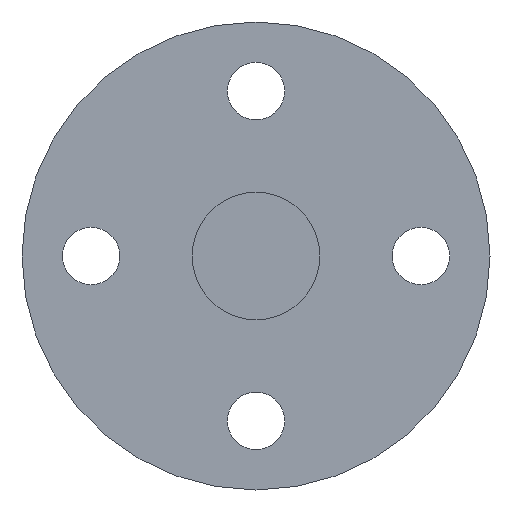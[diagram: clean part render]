
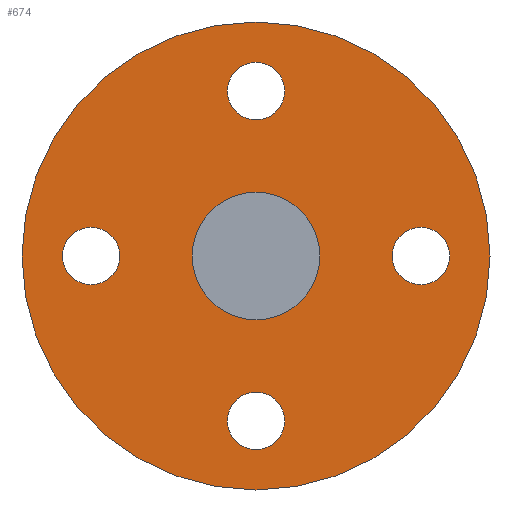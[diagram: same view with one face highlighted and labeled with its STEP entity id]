
A CAD part, left-side view. The second image highlights one B-rep face of the part: STEP entity #674.
In plain terms, the highlighted planar face has unit normal (-1, 0, 0).
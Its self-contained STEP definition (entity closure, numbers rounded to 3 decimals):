
#563=CARTESIAN_POINT('',(135.0,15.5,-2.7));
#564=VERTEX_POINT('',#563);
#565=CARTESIAN_POINT('',(135.0,15.5,0.));
#566=DIRECTION('',(1.0,0.0,0.0));
#567=DIRECTION('',(0.0,0.0,-1.0));
#568=AXIS2_PLACEMENT_3D('',#565,#566,#567);
#569=CIRCLE('',#568,2.7);
#570=EDGE_CURVE('',#564,#564,#569,.T.);
#583=CARTESIAN_POINT('',(135.0,-2.7,-15.5));
#584=VERTEX_POINT('',#583);
#585=CARTESIAN_POINT('',(135.0,0.,-15.5));
#586=DIRECTION('',(1.0,0.0,0.0));
#587=DIRECTION('',(0.0,-1.0,0.0));
#588=AXIS2_PLACEMENT_3D('',#585,#586,#587);
#589=CIRCLE('',#588,2.7);
#590=EDGE_CURVE('',#584,#584,#589,.T.);
#603=CARTESIAN_POINT('',(135.0,-15.5,2.7));
#604=VERTEX_POINT('',#603);
#605=CARTESIAN_POINT('',(135.0,-15.5,0.));
#606=DIRECTION('',(1.0,0.0,0.0));
#607=DIRECTION('',(0.0,0.0,1.0));
#608=AXIS2_PLACEMENT_3D('',#605,#606,#607);
#609=CIRCLE('',#608,2.7);
#610=EDGE_CURVE('',#604,#604,#609,.T.);
#623=CARTESIAN_POINT('',(135.0,2.7,15.5));
#624=VERTEX_POINT('',#623);
#625=CARTESIAN_POINT('',(135.0,0.0,15.5));
#626=DIRECTION('',(1.0,0.0,0.0));
#627=DIRECTION('',(0.0,1.0,0.0));
#628=AXIS2_PLACEMENT_3D('',#625,#626,#627);
#629=CIRCLE('',#628,2.7);
#630=EDGE_CURVE('',#624,#624,#629,.T.);
#635=CARTESIAN_POINT('',(135.0,0.0,14.));
#636=DIRECTION('',(-1.0,0.0,0.0));
#637=DIRECTION('',(0.0,0.0,1.0));
#638=AXIS2_PLACEMENT_3D('',#635,#636,#637);
#639=PLANE('',#638);
#640=CARTESIAN_POINT('',(135.0,0.0,22.0));
#641=VERTEX_POINT('',#640);
#642=CARTESIAN_POINT('',(135.0,0.0,0.0));
#643=DIRECTION('',(-1.0,0.0,0.0));
#644=DIRECTION('',(0.0,0.0,1.0));
#645=AXIS2_PLACEMENT_3D('',#642,#643,#644);
#646=CIRCLE('',#645,22.0);
#647=EDGE_CURVE('',#641,#641,#646,.T.);
#648=ORIENTED_EDGE('',*,*,#647,.T.);
#649=EDGE_LOOP('',(#648));
#650=FACE_OUTER_BOUND('',#649,.T.);
#651=ORIENTED_EDGE('',*,*,#570,.T.);
#652=EDGE_LOOP('',(#651));
#653=FACE_BOUND('',#652,.T.);
#654=ORIENTED_EDGE('',*,*,#590,.T.);
#655=EDGE_LOOP('',(#654));
#656=FACE_BOUND('',#655,.T.);
#657=ORIENTED_EDGE('',*,*,#610,.T.);
#658=EDGE_LOOP('',(#657));
#659=FACE_BOUND('',#658,.T.);
#660=ORIENTED_EDGE('',*,*,#630,.T.);
#661=EDGE_LOOP('',(#660));
#662=FACE_BOUND('',#661,.T.);
#663=CARTESIAN_POINT('',(135.0,0.0,6.));
#664=VERTEX_POINT('',#663);
#665=CARTESIAN_POINT('',(135.0,0.0,0.0));
#666=DIRECTION('',(-1.0,0.0,0.0));
#667=DIRECTION('',(0.0,0.0,1.0));
#668=AXIS2_PLACEMENT_3D('',#665,#666,#667);
#669=CIRCLE('',#668,6.);
#670=EDGE_CURVE('',#664,#664,#669,.T.);
#671=ORIENTED_EDGE('',*,*,#670,.F.);
#672=EDGE_LOOP('',(#671));
#673=FACE_BOUND('',#672,.T.);
#674=ADVANCED_FACE('',(#650,#653,#656,#659,#662,#673),#639,.T.);
